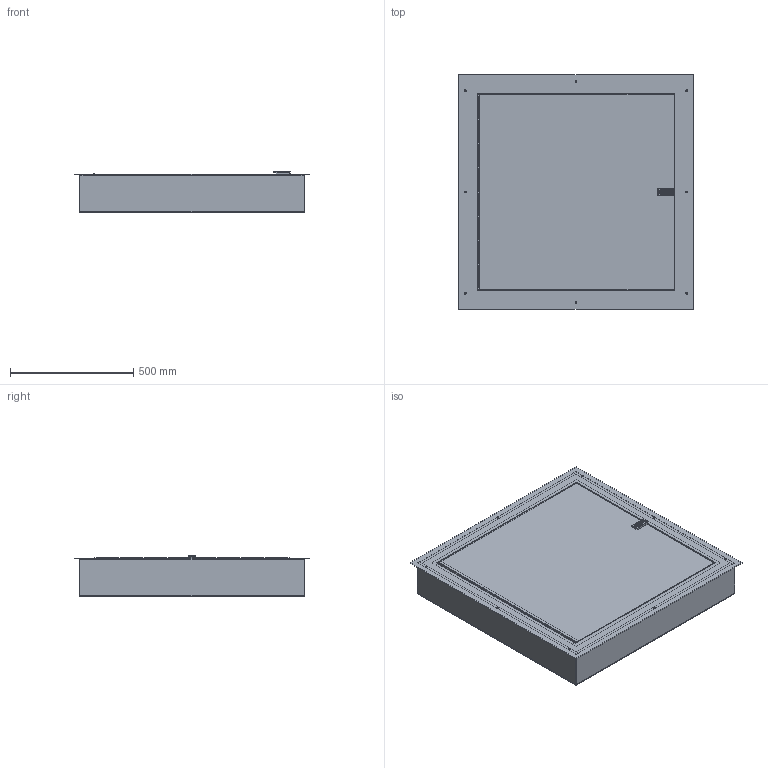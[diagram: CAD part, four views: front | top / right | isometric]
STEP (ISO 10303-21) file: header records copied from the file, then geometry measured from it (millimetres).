
FILE_DESCRIPTION (( 'STEP AP203' ), '1' );
FILE_NAME ('atc36366f.STEP', '2010-04-23T16:13:30', ( 'Hoffman User' ), ( 'Hoffman Enclosures' ), 'SwSTEP 2.0', 'SolidWorks 2009', '' );
FILE_SCHEMA (( 'CONFIG_CONTROL_DESIGN' ));
Length unit declared in the file: inch
Products named in the file (9): T90_DoorAssyFlushMount_36x36; Hinge_2_50a16_87566962_31in; atc36366f; T90_Body_36x36x6; T90_Panel_33x33; T90_CoverFlushMount_36x36; T90_Door_36x36; latch_87566953; hinge_assy_50A16_87566962_31in
Assembly tree (9 placements, depth 4):
  atc36366f
    T90_DoorAssyFlushMount_36x36
      T90_Door_36x36
      hinge_assy_50A16_87566962_31in
        Hinge_2_50a16_87566962_31in  x2
      T90_CoverFlushMount_36x36
      latch_87566953
    T90_Panel_33x33
    T90_Body_36x36x6
Bounding box: 952.5 x 952.5 x 165.86 mm (x, y, z)
Volume: 19227357.4 mm3; surface area: 6321604.3 mm2
Topology: 12 solids, 12 shells, 823 faces, 2291 edges, 1497 vertices
Faces by surface type: plane 425, cylinder 364, cone 12, torus 10, bspline 8, sphere 4
Entity records: 20780 total; most frequent: CARTESIAN_POINT 5159, ORIENTED_EDGE 3064, DIRECTION 2999, EDGE_CURVE 1532, AXIS2_PLACEMENT_3D 1025, VERTEX_POINT 993, VECTOR 949, LINE 949
